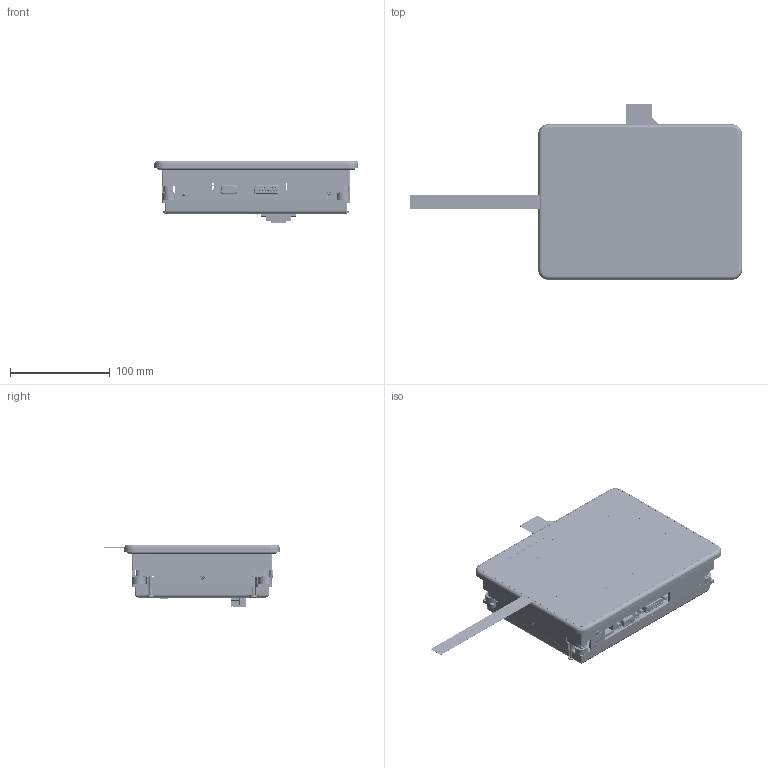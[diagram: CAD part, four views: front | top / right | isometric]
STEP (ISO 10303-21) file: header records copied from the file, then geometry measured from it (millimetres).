
FILE_DESCRIPTION (( 'STEP AP214' ), '1' );
FILE_NAME ('EZ12_7INCH.STEP', '2018-06-04T22:21:27', ( '' ), ( '' ), 'SwSTEP 2.0', 'SolidWorks 2018', '' );
FILE_SCHEMA (( 'AUTOMOTIVE_DESIGN' ));
Length unit declared in the file: millimetre
Products named in the file (42): MEM2051; 34210; MLB-7EZ12-001; 48414; _S__4; EEC-04PIN-USB; 28428 Half AA; 36165; ECM-RJ-45-FLED; MBP-6EZ12-BACK; SHELL; TL_1; MCO-XXEZ9-002; PCA-EZPE3-7DSIP; H; TS_1; TSN-7INCH-001a.SLDPRT; ZLE-C155G-EKT; USB1030; PCA-EZPE-030; TS; 50402; PCA-EZPE3-010T; MCO-XXEZ9-003; EZ12_7INCH; MSC-08-32-STUD_92620A408; MLB-XEZ12-002; 7 iNCH Display nEW; EPM-50PIN-002; MGK-6EZ12-002; ECM-XXEZ3-003; BAT-PGIXP-001; MBK-EZ3XX-DIN; 49035_CR-PHMS 0.138-32x0.375x0.375-N; SD CARD MICRO; 45681M; dfk-mstb_2.5-3-gf-5.08; MFP-07EZ3-BEZ A; MCO-XXEZ9-001; TSN-7INCH-001 b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
Assembly tree (60 placements, depth 4):
  TL_1
  EZ12_7INCH
    MFP-07EZ3-BEZ A
    7 iNCH Display nEW  x2
    TSN-7INCH-001a.SLDPRT
      TSN-7INCH-001
      TSN-7INCH-001 b
    PCA-EZPE3-7DSIP
    MSC-08-32-STUD_92620A408  x4
    50402  x4
    PCA-EZPE3-010T
      PCA-EZPE-030
      USB1030
        H
        SHELL
        TS
        TS_1
        _S__4
      MEM2051
      ECM-RJ-45-FLED
      EEC-04PIN-USB
      34210
      36165
      45681M
      EPM-50PIN-002
      ZLE-C155G-EKT
    MBK-EZ3XX-DIN  x4
    48414  x6
    MBP-6EZ12-BACK
    MCO-XXEZ9-002
    MCO-XXEZ9-003
    49035_CR-PHMS 0.138-32x0.375x0.375-N  x4
    28428 Half AA
    BAT-PGIXP-001  x2
    MCO-XXEZ9-001
    dfk-mstb_2.5-3-gf-5.08
    ECM-XXEZ3-003
    MSC-M3.00-S12PP  x2
    SD CARD MICRO
    MLB-XEZ12-002
    MLB-7EZ12-001
    MGK-6EZ12-002
Bounding box: 333.17 x 176.22 x 63.11 mm (x, y, z)
Volume: 599403.8 mm3; surface area: 483687.9 mm2
Topology: 66 solids, 90 shells, 14561 faces, 38608 edges, 24619 vertices
Faces by surface type: plane 9496, cylinder 3365, bspline 1069, cone 379, torus 202, sphere 50
Entity records: 527059 total; most frequent: CARTESIAN_POINT 183683, ORIENTED_EDGE 72186, DIRECTION 57621, EDGE_CURVE 36148, LINE 24303, VECTOR 24303, VERTEX_POINT 23051, AXIS2_PLACEMENT_3D 16659
